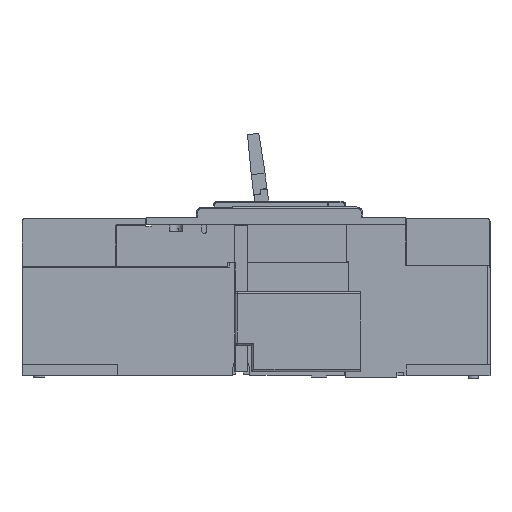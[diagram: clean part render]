
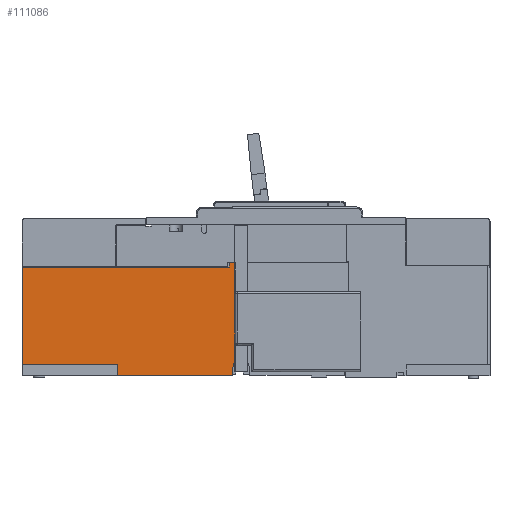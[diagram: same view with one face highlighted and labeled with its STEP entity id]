
A CAD part, left-side view. The second image highlights one B-rep face of the part: STEP entity #111086.
In plain terms, the highlighted planar face has unit normal (-1, 0, 0).
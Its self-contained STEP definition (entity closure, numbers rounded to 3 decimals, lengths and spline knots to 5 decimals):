
#87615=DIRECTION('',(0.,-1.,0.));
#87616=VECTOR('',#87615,0.005);
#87617=CARTESIAN_POINT('',(0.00239,0.17945,
0.11931));
#87618=LINE('',#87617,#87616);
#95027=DIRECTION('',(0.,0.,1.));
#95028=VECTOR('',#95027,0.0847);
#95029=CARTESIAN_POINT('',(0.00239,0.35995,
0.03061));
#95030=LINE('',#95029,#95028);
#95047=DIRECTION('',(0.,1.,0.));
#95048=VECTOR('',#95047,0.0835);
#95049=CARTESIAN_POINT('',(0.00239,0.27645,
0.03061));
#95050=LINE('',#95049,#95048);
#95055=DIRECTION('',(0.,0.,1.));
#95056=VECTOR('',#95055,0.0098);
#95057=CARTESIAN_POINT('',(0.00239,0.27645,
0.02081));
#95058=LINE('',#95057,#95056);
#95063=DIRECTION('',(0.,-0.071,0.997));
#95064=VECTOR('',#95063,0.00702);
#95065=CARTESIAN_POINT('',(0.00239,0.1767,
0.02081));
#95066=LINE('',#95065,#95064);
#95067=DIRECTION('',(0.,-1.,0.));
#95068=VECTOR('',#95067,0.09975);
#95069=CARTESIAN_POINT('',(0.00239,0.27645,
0.02081));
#95070=LINE('',#95069,#95068);
#95071=DIRECTION('',(0.,-0.27,0.963));
#95072=VECTOR('',#95071,0.00649);
#95073=CARTESIAN_POINT('',(0.00239,0.1762,
0.02781));
#95074=LINE('',#95073,#95072);
#95083=DIRECTION('',(0.,0.,-1.));
#95084=VECTOR('',#95083,0.08525);
#95085=CARTESIAN_POINT('',(0.00239,0.17445,
0.11931));
#95086=LINE('',#95085,#95084);
#95283=DIRECTION('',(0.,-1.,0.));
#95284=VECTOR('',#95283,0.1805);
#95285=CARTESIAN_POINT('',(0.00239,0.35995,
0.11531));
#95286=LINE('',#95285,#95284);
#95305=DIRECTION('',(0.,0.,1.));
#95306=VECTOR('',#95305,0.004);
#95307=CARTESIAN_POINT('',(0.00239,0.17945,
0.11531));
#95308=LINE('',#95307,#95306);
#97237=CARTESIAN_POINT('',(0.00239,0.17445,
0.03406));
#97239=VERTEX_POINT('',#97237);
#98147=CARTESIAN_POINT('',(0.00239,0.27645,
0.02081));
#98148=CARTESIAN_POINT('',(0.00239,0.27645,
0.03061));
#98149=VERTEX_POINT('',#98147);
#98150=VERTEX_POINT('',#98148);
#98153=CARTESIAN_POINT('',(0.00239,0.35995,
0.03061));
#98154=VERTEX_POINT('',#98153);
#98158=CARTESIAN_POINT('',(0.00239,0.35995,
0.11531));
#98160=VERTEX_POINT('',#98158);
#98235=CARTESIAN_POINT('',(0.00239,0.17445,
0.11931));
#98236=VERTEX_POINT('',#98235);
#98237=CARTESIAN_POINT('',(0.00239,0.17945,
0.11931));
#98238=VERTEX_POINT('',#98237);
#98245=CARTESIAN_POINT('',(0.00239,0.17945,
0.11531));
#98246=VERTEX_POINT('',#98245);
#98463=CARTESIAN_POINT('',(0.00239,0.1767,
0.02081));
#98464=VERTEX_POINT('',#98463);
#98491=CARTESIAN_POINT('',(0.00239,0.1762,
0.02781));
#98492=VERTEX_POINT('',#98491);
#111064=CARTESIAN_POINT('',(0.00239,0.07495,
0.02481));
#111065=DIRECTION('',(-1.,0.,0.));
#111066=DIRECTION('',(0.,0.,1.));
#111067=AXIS2_PLACEMENT_3D('',#111064,#111065,#111066);
#111068=PLANE('',#111067);
#111070=ORIENTED_EDGE('',*,*,#111069,.F.);
#111071=ORIENTED_EDGE('',*,*,#101943,.F.);
#111072=ORIENTED_EDGE('',*,*,#111058,.T.);
#111073=ORIENTED_EDGE('',*,*,#111046,.T.);
#111074=ORIENTED_EDGE('',*,*,#111016,.T.);
#111076=ORIENTED_EDGE('',*,*,#111075,.T.);
#111078=ORIENTED_EDGE('',*,*,#111077,.T.);
#111079=ORIENTED_EDGE('',*,*,#101134,.T.);
#111081=ORIENTED_EDGE('',*,*,#111080,.T.);
#111083=ORIENTED_EDGE('',*,*,#111082,.F.);
#111084=EDGE_LOOP('',(#111070,#111071,#111072,#111073,#111074,#111076,#111078,
#111079,#111081,#111083));
#111085=FACE_OUTER_BOUND('',#111084,.F.);
#111086=ADVANCED_FACE('',(#111085),#111068,.T.);
#101134=EDGE_CURVE('',#98238,#98236,#87618,.T.);
#101943=EDGE_CURVE('',#98149,#98464,#95070,.T.);
#111016=EDGE_CURVE('',#98154,#98160,#95030,.T.);
#111046=EDGE_CURVE('',#98150,#98154,#95050,.T.);
#111058=EDGE_CURVE('',#98149,#98150,#95058,.T.);
#111069=EDGE_CURVE('',#98464,#98492,#95066,.T.);
#111075=EDGE_CURVE('',#98160,#98246,#95286,.T.);
#111077=EDGE_CURVE('',#98246,#98238,#95308,.T.);
#111080=EDGE_CURVE('',#98236,#97239,#95086,.T.);
#111082=EDGE_CURVE('',#98492,#97239,#95074,.T.);
